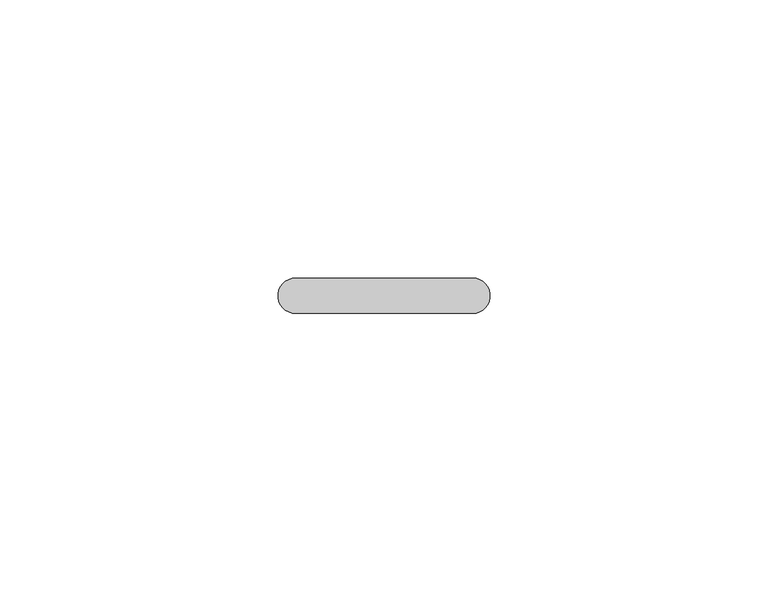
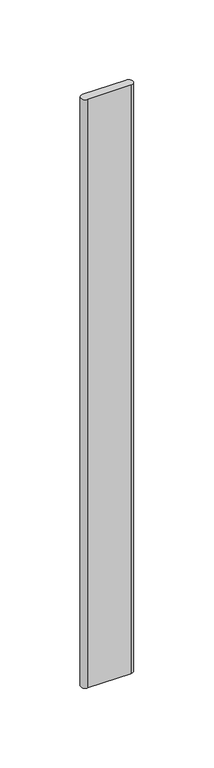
"""IFC4 building model written with IfcOpenShell, lengths in millimetres: proxy geometry, Durabond Generic Model Insulation Adhesive Flat : Durabond Generic Model Insulation Adhesive Flat."""

from ifc_helpers import new_model, si_unit, point, frame_2d, origin, origin_with_axes, place, context, project, spatial, polyline, circle_curve, trimmed, segment, composite_curve, outline, extrude, source, transform, mapped, element, save


def generic_models_e46152ee(model_context):
    return source(origin(), model_context, "Body", "SweptSolid", [
        extrude(outline(composite_curve([segment(trimmed(circle_curve(frame_2d((15.875, 0.0)), 3.175), [point((15.875, 3.175))], [point((15.875, -3.175))], False, "CARTESIAN"), True, "CONTINUOUS"), segment(polyline([(15.875, -3.175), (-15.875, -3.175)]), True, "CONTINUOUS"), segment(trimmed(circle_curve(frame_2d((-15.875, 0.0)), 3.175), [point((-15.875, -3.175))], [point((-15.875, 3.175))], False, "CARTESIAN"), True, "CONTINUOUS"), segment(polyline([(-15.875, 3.175), (15.875, 3.175)]), True, "CONTINUOUS")], self_intersect=False)), origin_with_axes(), (0.0, 0.0, 1.0), 457.2),
    ])


if __name__ == "__main__":
    model = new_model("IFC4")
    model_context = context("Model", 3, world=origin())
    ifc_project = project(units=[si_unit("LENGTHUNIT", "METRE", prefix="MILLI")], contexts=[model_context])
    site = spatial("IfcSite", under=ifc_project)
    building = spatial("IfcBuilding", under=site)
    placement = place(None, origin())
    generic_models_shape = generic_models_e46152ee(model_context)
    element("IfcBuildingElementProxy", 1, Name="Durabond Generic Model Insulation Adhesive Flat : Durabond Generic Model Insulation Adhesive Flat", ObjectType="Durabond Generic Model Insulation Adhesive Flat : Durabond Generic Model Insulation Adhesive Flat", at=placement, inside=building, context=model_context, shape_type="MappedRepresentation", body=[
        mapped(generic_models_shape, transform((0.0, 0.0, 0.0), x_axis=(1.0, 0.0, 0.0), y_axis=(0.0, 1.0, 0.0), z_axis=(0.0, 0.0, 1.0))),
    ])
    save(model, "model.ifc")
